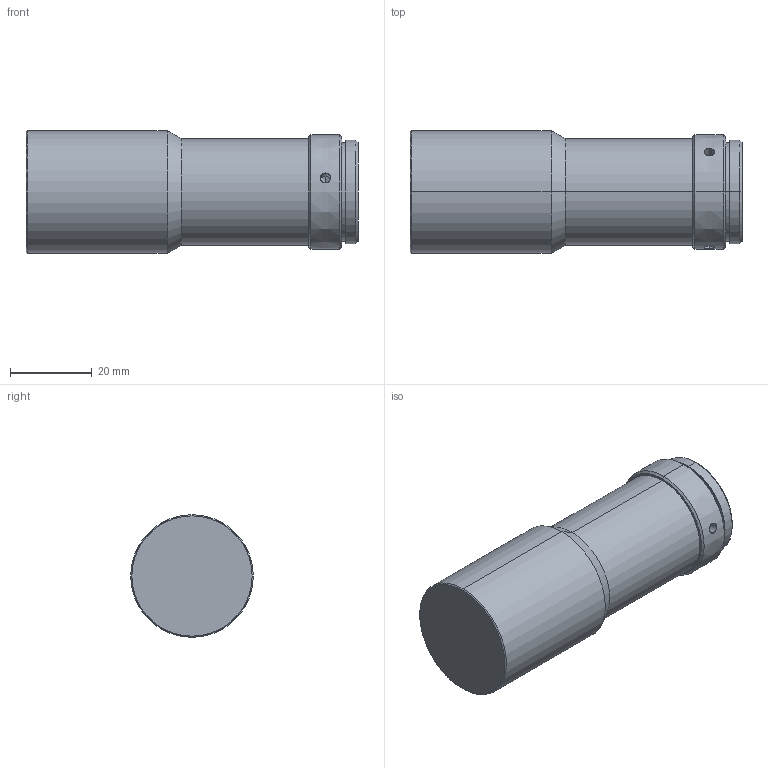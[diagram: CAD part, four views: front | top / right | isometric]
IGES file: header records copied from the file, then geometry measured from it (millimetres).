
Start section: SolidWorks IGES file using analytic representation for surfaces
Global section: file name: D:\撮扲窒\3D俋倛芞\3D   igs\WH\WH018-150A.IGS; native system: SolidWorks 2012; preprocessor: SolidWorks 2012; author: ZXC; date: 171201.143808; units: millimetre
Bounding box: 81.2 x 30 x 30 mm (x, y, z)
Surface area: 8669.1 mm2 (no closed solid volume)
Topology: 0 solids, 0 shells, 37 faces, 554 edges, 548 vertices
Faces by surface type: revolution 32, bspline 5
